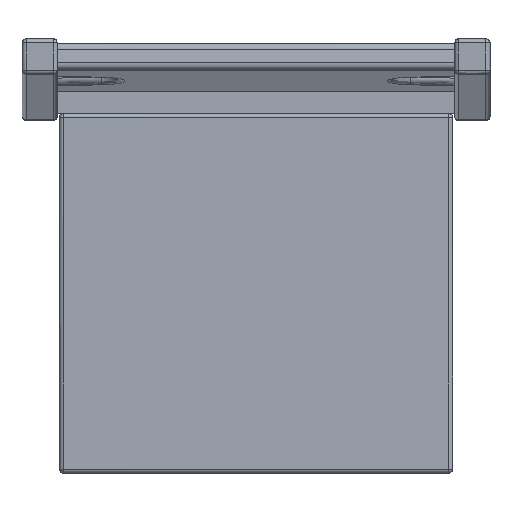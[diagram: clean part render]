
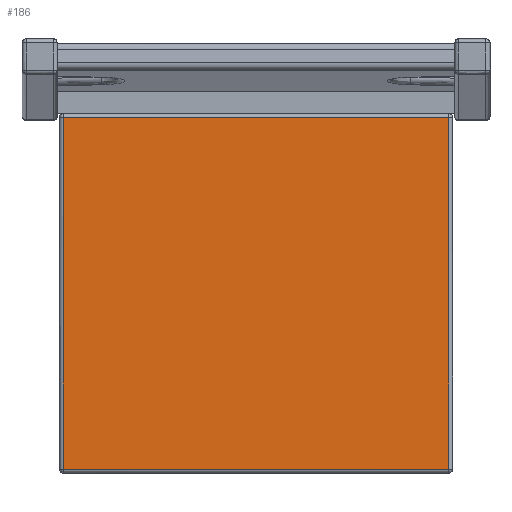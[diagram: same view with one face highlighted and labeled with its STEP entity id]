
A CAD part, top view. The second image highlights one B-rep face of the part: STEP entity #186.
In plain terms, the highlighted planar face has unit normal (0, 0, 1).
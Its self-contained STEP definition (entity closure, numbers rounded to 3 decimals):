
#186=ADVANCED_FACE('',(#447),#3844,.T.);
#447=FACE_OUTER_BOUND('',#708,.T.);
#708=EDGE_LOOP('',(#1361,#1362,#1363,#1364));
#1361=ORIENTED_EDGE('',*,*,#2386,.F.);
#1362=ORIENTED_EDGE('',*,*,#2390,.F.);
#1363=ORIENTED_EDGE('',*,*,#2395,.F.);
#1364=ORIENTED_EDGE('',*,*,#2397,.F.);
#2386=EDGE_CURVE('',#3575,#3566,#2922,.T.);
#2390=EDGE_CURVE('',#3570,#3575,#2926,.T.);
#2395=EDGE_CURVE('',#3559,#3570,#2931,.T.);
#2397=EDGE_CURVE('',#3566,#3559,#2933,.T.);
#2922=B_SPLINE_CURVE_WITH_KNOTS('',1,(#15061,#15062),.UNSPECIFIED.,.F.,
 .F.,(2,2),(0.,258.998),.UNSPECIFIED.);
#2926=B_SPLINE_CURVE_WITH_KNOTS('',1,(#15069,#15070),.UNSPECIFIED.,.F.,
 .F.,(2,2),(0.,284.002),.UNSPECIFIED.);
#2931=B_SPLINE_CURVE_WITH_KNOTS('',1,(#15079,#15080),.UNSPECIFIED.,.F.,
 .F.,(2,2),(0.,258.998),.UNSPECIFIED.);
#2933=B_SPLINE_CURVE_WITH_KNOTS('',1,(#15083,#15084),.UNSPECIFIED.,.F.,
 .F.,(2,2),(0.,284.002),.UNSPECIFIED.);
#3559=VERTEX_POINT('',#13933);
#3566=VERTEX_POINT('',#13940);
#3570=VERTEX_POINT('',#13944);
#3575=VERTEX_POINT('',#13949);
#3844=PLANE('',#4078);
#4078=AXIS2_PLACEMENT_3D('',#8111,#4183,$);
#4183=DIRECTION('',(0.,0.,1.));
#8111=CARTESIAN_POINT('',(-170.553,-192.56,280.059));
#13933=CARTESIAN_POINT('',(142.036,92.519,280.059));
#13940=CARTESIAN_POINT('',(-142.026,92.519,280.059));
#13944=CARTESIAN_POINT('',(142.036,-166.535,280.059));
#13949=CARTESIAN_POINT('',(-142.026,-166.535,280.059));
#15061=CARTESIAN_POINT('',(-142.026,-166.535,280.059));
#15062=CARTESIAN_POINT('',(-142.026,92.519,280.059));
#15069=CARTESIAN_POINT('',(142.036,-166.535,280.059));
#15070=CARTESIAN_POINT('',(-142.026,-166.535,280.059));
#15079=CARTESIAN_POINT('',(142.036,92.519,280.059));
#15080=CARTESIAN_POINT('',(142.036,-166.535,280.059));
#15083=CARTESIAN_POINT('',(-142.026,92.519,280.059));
#15084=CARTESIAN_POINT('',(142.036,92.519,280.059));
